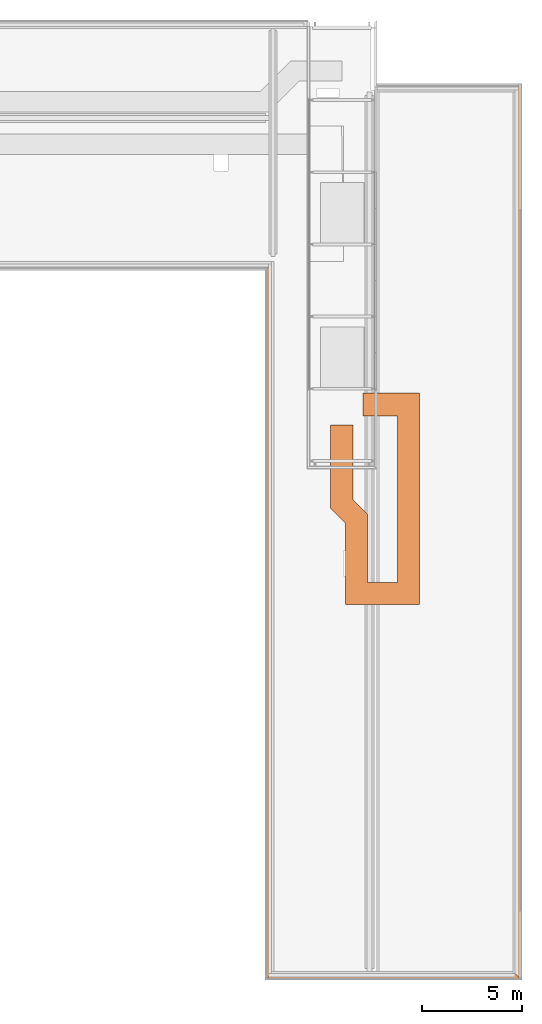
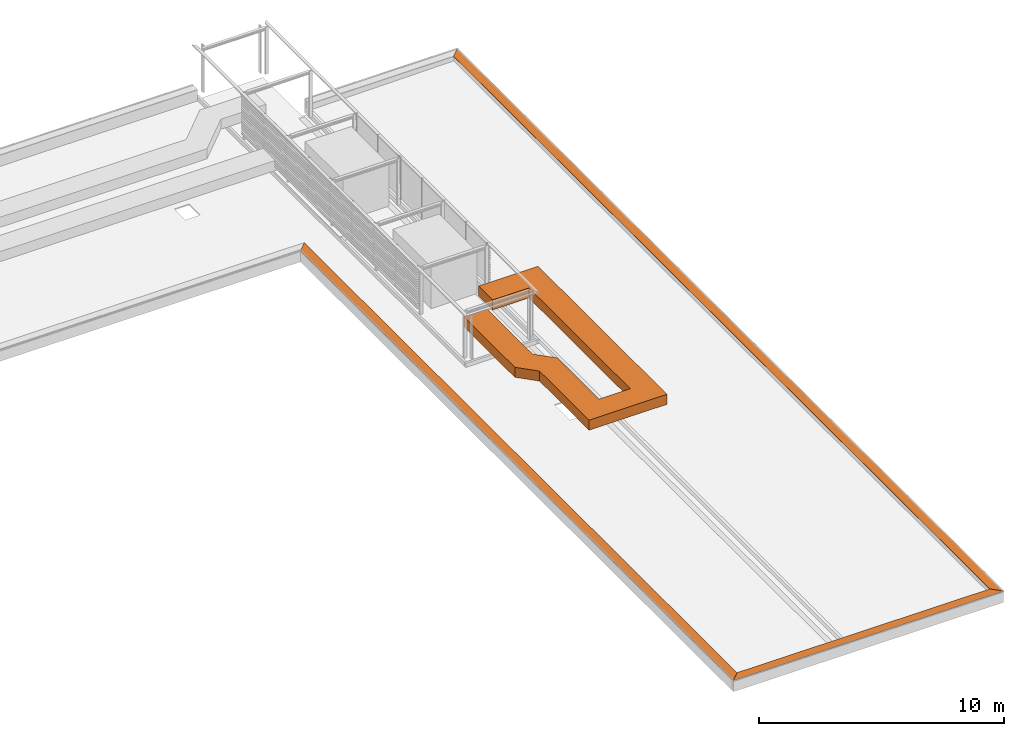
# One storey, part 21 of 32: 4 proxies.
"""IFC2X3 building model written with IfcOpenShell, lengths in millimetres."""

from ifc_helpers import new_model, entity, si_unit, converted_unit, derived_unit, direction, frame, origin, place, context, subcontext, project, spatial, polyline, outline, extrude, source, transform, mapped, material, type_object, type_shapes, element, save


model = new_model("IFC2X3")

# Units and contexts
model_context = context("Model", 3, precision=0.01, world=origin(), true_north=direction((6.123031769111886e-17, 1.0)))
body_context = subcontext(model_context, "Body", "Model", "MODEL_VIEW")
ifc_project = project(units=[si_unit("LENGTHUNIT", "METRE", prefix="MILLI"), si_unit("AREAUNIT", "SQUARE_METRE"), si_unit("VOLUMEUNIT", "CUBIC_METRE"), converted_unit("PLANEANGLEUNIT", "DEGREE", entity("IfcRatioMeasure", 0.017453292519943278), si_unit("PLANEANGLEUNIT", "RADIAN"), dimensions=[0, 0, 0, 0, 0, 0, 0]), si_unit("MASSUNIT", "GRAM", prefix="KILO"), derived_unit("MASSDENSITYUNIT", [(si_unit("MASSUNIT", "GRAM", prefix="KILO"), 1), (si_unit("LENGTHUNIT", "METRE"), -3)]), derived_unit("IONCONCENTRATIONUNIT", [(si_unit("MASSUNIT", "GRAM", prefix="KILO"), 1), (si_unit("LENGTHUNIT", "METRE"), -3)]), derived_unit("MOMENTOFINERTIAUNIT", [(si_unit("LENGTHUNIT", "METRE"), 4)]), si_unit("TIMEUNIT", "SECOND"), si_unit("FREQUENCYUNIT", "HERTZ"), si_unit("THERMODYNAMICTEMPERATUREUNIT", "DEGREE_CELSIUS"), derived_unit("THERMALTRANSMITTANCEUNIT", [(si_unit("MASSUNIT", "GRAM", prefix="KILO"), 1), (si_unit("THERMODYNAMICTEMPERATUREUNIT", "KELVIN"), -1), (si_unit("TIMEUNIT", "SECOND"), -3)]), derived_unit("THERMALCONDUCTANCEUNIT", [(si_unit("MASSUNIT", "GRAM", prefix="KILO"), 1), (si_unit("THERMODYNAMICTEMPERATUREUNIT", "KELVIN"), -1), (si_unit("TIMEUNIT", "SECOND"), -3), (si_unit("LENGTHUNIT", "METRE"), 1)]), derived_unit("VOLUMETRICFLOWRATEUNIT", [(si_unit("LENGTHUNIT", "METRE"), 3), (si_unit("TIMEUNIT", "SECOND"), -1)]), derived_unit("MASSFLOWRATEUNIT", [(si_unit("MASSUNIT", "GRAM", prefix="KILO"), 1), (si_unit("TIMEUNIT", "SECOND"), -1)]), derived_unit("ROTATIONALFREQUENCYUNIT", [(si_unit("TIMEUNIT", "SECOND"), -1)]), si_unit("ELECTRICCURRENTUNIT", "AMPERE"), si_unit("ELECTRICVOLTAGEUNIT", "VOLT"), si_unit("POWERUNIT", "WATT"), si_unit("FORCEUNIT", "NEWTON", prefix="KILO"), si_unit("ILLUMINANCEUNIT", "LUX"), si_unit("LUMINOUSFLUXUNIT", "LUMEN"), si_unit("LUMINOUSINTENSITYUNIT", "CANDELA"), derived_unit("USERDEFINED", [(si_unit("MASSUNIT", "GRAM", prefix="KILO"), -1), (si_unit("LENGTHUNIT", "METRE"), -2), (si_unit("TIMEUNIT", "SECOND"), 3), (si_unit("LUMINOUSFLUXUNIT", "LUMEN"), 1)]), derived_unit("USERDEFINED", [(si_unit("MASSUNIT", "GRAM", prefix="KILO"), 1), (si_unit("TIMEUNIT", "SECOND"), -3), (si_unit("LENGTHUNIT", "METRE"), 3), (si_unit("ELECTRICCURRENTUNIT", "AMPERE"), -2)]), derived_unit("SOUNDPOWERUNIT", [(si_unit("MASSUNIT", "GRAM", prefix="KILO"), 1), (si_unit("TIMEUNIT", "SECOND"), -3), (si_unit("LENGTHUNIT", "METRE"), 2)]), derived_unit("SOUNDPRESSUREUNIT", [(si_unit("MASSUNIT", "GRAM", prefix="KILO"), 1), (si_unit("LENGTHUNIT", "METRE"), -1), (si_unit("TIMEUNIT", "SECOND"), -2)]), derived_unit("LINEARVELOCITYUNIT", [(si_unit("LENGTHUNIT", "METRE"), 1), (si_unit("TIMEUNIT", "SECOND"), -1)]), si_unit("PRESSUREUNIT", "PASCAL"), derived_unit("USERDEFINED", [(si_unit("MASSUNIT", "GRAM", prefix="KILO"), 1), (si_unit("LENGTHUNIT", "METRE"), -2), (si_unit("TIMEUNIT", "SECOND"), -2)]), derived_unit("LINEARFORCEUNIT", [(si_unit("MASSUNIT", "GRAM", prefix="KILO"), 1), (si_unit("TIMEUNIT", "SECOND"), -2)]), derived_unit("PLANARFORCEUNIT", [(si_unit("MASSUNIT", "GRAM", prefix="KILO"), 1), (si_unit("LENGTHUNIT", "METRE"), -1), (si_unit("TIMEUNIT", "SECOND"), -2)]), derived_unit("SPECIFICHEATCAPACITYUNIT", [(si_unit("THERMODYNAMICTEMPERATUREUNIT", "KELVIN"), -1), (si_unit("LENGTHUNIT", "METRE"), 2), (si_unit("TIMEUNIT", "SECOND"), -2)]), derived_unit("HEATINGVALUEUNIT", [(si_unit("LENGTHUNIT", "METRE"), 2), (si_unit("TIMEUNIT", "SECOND"), -2)]), derived_unit("VAPORPERMEABILITYUNIT", [(si_unit("LENGTHUNIT", "METRE"), -1), (si_unit("TIMEUNIT", "SECOND"), 1)]), derived_unit("DYNAMICVISCOSITYUNIT", [(si_unit("MASSUNIT", "GRAM", prefix="KILO"), 1), (si_unit("TIMEUNIT", "SECOND"), -1), (si_unit("LENGTHUNIT", "METRE"), -1)]), derived_unit("THERMALEXPANSIONCOEFFICIENTUNIT", [(si_unit("THERMODYNAMICTEMPERATUREUNIT", "KELVIN"), -1)]), derived_unit("MODULUSOFELASTICITYUNIT", [(si_unit("MASSUNIT", "GRAM", prefix="KILO"), 1), (si_unit("LENGTHUNIT", "METRE"), -1), (si_unit("TIMEUNIT", "SECOND"), -2)]), derived_unit("ISOTHERMALMOISTURECAPACITYUNIT", [(si_unit("LENGTHUNIT", "METRE"), 3), (si_unit("MASSUNIT", "GRAM", prefix="KILO"), -1)]), derived_unit("MOISTUREDIFFUSIVITYUNIT", [(si_unit("TIMEUNIT", "SECOND"), -1), (si_unit("LENGTHUNIT", "METRE"), 2)])], contexts=[model_context])

# Site, building, storey
site_placement = place(None, frame((0.0, 300.0, 0.0)))
site = spatial("IfcSite", under=ifc_project, at=site_placement, Name="<Kadastrale nummers>", CompositionType="ELEMENT")
building_placement = place(site_placement, origin())
building = spatial("IfcBuilding", under=site, at=building_placement, CompositionType="ELEMENT")
storey_placement = place(building_placement, frame((0.0, 0.0, 7150.000035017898)))
storey = spatial("IfcBuildingStorey", under=building, at=storey_placement, Name="02 tweede verdieping", CompositionType="ELEMENT", Elevation=7150.000035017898)

# Proxies
ifc_material_1 = material(Name="ISR_Multiplex")
building_element_proxy_type_1 = type_object("IfcBuildingElementProxyType", Name="NLRS_42_GM_WBP_plaat:18x409", PredefinedType="NOTDEFINED", material=ifc_material_1)
shared_shape_1 = source(origin(), body_context, "Body", "SweptSolid", [
    extrude(outline(polyline([(-12804.996700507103, -12515.790027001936), (-12226.583353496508, -12515.790027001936), (12804.996700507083, 12515.79002700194), (12226.583353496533, 12515.790027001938), (-12804.996700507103, -12515.790027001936)])), frame((-204.50000000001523, 204.50000000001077, 0.0), z_axis=(0.0, 0.0, 1.0), x_axis=(-0.7071067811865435, 0.7071067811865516, 0.0)), (0.0, 0.0, 1.0), 18.000000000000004),
])
type_shapes(building_element_proxy_type_1, [shared_shape_1])
proxy_1_placement = place(storey_placement, frame((36225.0, 20025.0, 549.9999649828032), z_axis=(0.0, 0.0, 1.0), x_axis=(0.0, -1.0, 0.0)))
element("IfcBuildingElementProxy", 1, at=proxy_1_placement, inside=storey, type_object=building_element_proxy_type_1, material=ifc_material_1, Name="NLRS_42_GM_WBP_plaat:18x409", ObjectType="NLRS_42_GM_WBP_plaat:18x409", context=body_context, shape_type="MappedRepresentation", body=[
    mapped(shared_shape_1, transform((0.0, 0.0, 0.0), scale=1.0)),
])
building_element_proxy_type_2 = type_object("IfcBuildingElementProxyType", Name="NLRS_42_GM_WBP_plaat:18x409", PredefinedType="NOTDEFINED", material=ifc_material_1)
shared_shape_2 = source(origin(), body_context, "Body", "SweptSolid", [
    extrude(outline(polyline([(-4652.4090668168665, -4363.202393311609), (-4073.9957198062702, -4363.202393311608), (4363.202393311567, 4073.995719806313), (4363.202393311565, 4652.4090668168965), (-4652.4090668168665, -4363.202393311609)])), frame((0.0, 204.50000000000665, 0.0), z_axis=(0.0, 0.0, 1.0), x_axis=(-0.7071067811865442, 0.7071067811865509, 0.0)), (0.0, 0.0, 1.0), 18.000000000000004),
])
type_shapes(building_element_proxy_type_2, [shared_shape_2])
proxy_2_placement = place(storey_placement, frame((42600.0, 2325.0, 549.9999649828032)))
element("IfcBuildingElementProxy", 2, at=proxy_2_placement, inside=storey, type_object=building_element_proxy_type_2, material=ifc_material_1, Name="NLRS_42_GM_WBP_plaat:18x409", ObjectType="NLRS_42_GM_WBP_plaat:18x409", context=body_context, shape_type="MappedRepresentation", body=[
    mapped(shared_shape_2, transform((0.0, 0.0, 0.0), scale=1.0)),
])
building_element_proxy_type_3 = type_object("IfcBuildingElementProxyType", Name="NLRS_42_GM_WBP_plaat:18x409", PredefinedType="NOTDEFINED", material=ifc_material_1)
shared_shape_3 = source(origin(), body_context, "Body", "SweptSolid", [
    extrude(outline(polyline([(-15939.601061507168, -15650.394388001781), (-15361.187714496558, -15650.394388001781), (15650.394388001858, 15361.187714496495), (15650.39438800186, 15939.601061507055), (-15939.601061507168, -15650.394388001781)])), frame((0.0, 204.5000000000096, 0.0), z_axis=(0.0, 0.0, 1.0), x_axis=(-0.7071067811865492, 0.7071067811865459, 0.0)), (0.0, 0.0, 1.0), 18.000000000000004),
])
type_shapes(building_element_proxy_type_3, [shared_shape_3])
proxy_3_placement = place(storey_placement, frame((48975.0, 24662.49999999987, 549.9999649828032), z_axis=(0.0, 0.0, 1.0), x_axis=(0.0, 1.0, 0.0)))
element("IfcBuildingElementProxy", 3, at=proxy_3_placement, inside=storey, type_object=building_element_proxy_type_3, material=ifc_material_1, Name="NLRS_42_GM_WBP_plaat:18x409", ObjectType="NLRS_42_GM_WBP_plaat:18x409", context=body_context, shape_type="MappedRepresentation", body=[
    mapped(shared_shape_3, transform((0.0, 0.0, 0.0), scale=1.0)),
])
ifc_material_2 = material(Name="<Unnamed>")
building_element_proxy_type_4 = type_object("IfcBuildingElementProxyType", Name="Mechanical Equipment 3:Mechanical Equipment 1", PredefinedType="NOTDEFINED", material=ifc_material_2)
shared_shape_4 = source(origin(), body_context, "Body", "SweptSolid", [
    extrude(outline(polyline([(-733.8343705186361, 1902.5276293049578), (-3670.4273341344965, -1034.0653343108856), (-2892.609874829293, -1811.882793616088), (-278.19945190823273, 802.527629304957), (768.3185842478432, 802.527629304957), (3169.189492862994, 3203.398537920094), (4219.560728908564, 2153.0273018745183), (-1644.7829935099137, -3711.3164205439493), (-2851.8295484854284, -2504.2698655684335), (-3663.65902646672, -3316.0993435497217), (-1678.7950121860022, -5300.963357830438), (5775.195647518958, 2153.0273018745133), (3169.189492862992, 4759.033456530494), (312.6836656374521, 1902.5276293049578), (-733.8343705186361, 1902.5276293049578)])), frame((41337.9079908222, 26652.66578361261, 7462.290144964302), z_axis=(0.0, 0.0, -1.0), x_axis=(0.7071067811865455, -0.7071067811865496, 0.0)), (0.0, 0.0, -1.0), 500.00000000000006),
])
type_shapes(building_element_proxy_type_4, [shared_shape_4])
proxy_4_placement = place(storey_placement, frame((0.0, 0.0, -7150.000035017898)))
element("IfcBuildingElementProxy", 4, at=proxy_4_placement, inside=storey, type_object=building_element_proxy_type_4, material=ifc_material_2, Name="Mechanical Equipment 3:Mechanical Equipment 1", ObjectType="Mechanical Equipment 3:Mechanical Equipment 1", context=body_context, shape_type="MappedRepresentation", body=[
    mapped(shared_shape_4, transform((0.0, 0.0, 0.0), scale=1.0)),
])

save(model, "model.ifc")
